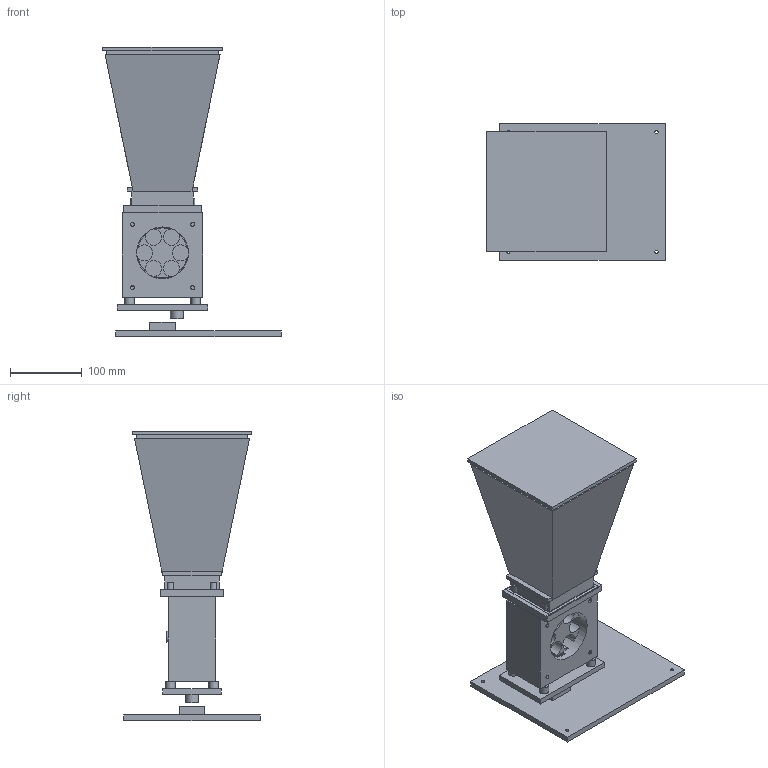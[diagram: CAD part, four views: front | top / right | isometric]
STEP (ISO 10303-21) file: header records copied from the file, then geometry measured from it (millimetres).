
FILE_DESCRIPTION(('Open CASCADE Model'),'2;1');
FILE_NAME('Open CASCADE Shape Model','2026-09-11T00:07:31',('Author'),( 'Open CASCADE'),'Open CASCADE STEP processor 7.9','Open CASCADE 7.9' ,'Unknown');
FILE_SCHEMA(('AUTOMOTIVE_DESIGN { 1 0 10303 214 1 1 1 1 }'));
Length unit declared in the file: millimetre
Products named in the file (11): Open CASCADE STEP translator 7.9 1; Open CASCADE STEP translator 7.9 1.1; Open CASCADE STEP translator 7.9 1.2; Open CASCADE STEP translator 7.9 1.3; Open CASCADE STEP translator 7.9 1.4; Open CASCADE STEP translator 7.9 1.5; Open CASCADE STEP translator 7.9 1.6; Open CASCADE STEP translator 7.9 1.7; Open CASCADE STEP translator 7.9 1.8; Open CASCADE STEP translator 7.9 1.9; Open CASCADE STEP translator 7.9 1.10
Assembly tree (10 placements, depth 2):
  Open CASCADE STEP translator 7.9 1
    Open CASCADE STEP translator 7.9 1.1
    Open CASCADE STEP translator 7.9 1.2
    Open CASCADE STEP translator 7.9 1.3
    Open CASCADE STEP translator 7.9 1.4
    Open CASCADE STEP translator 7.9 1.5
    Open CASCADE STEP translator 7.9 1.6
    Open CASCADE STEP translator 7.9 1.7
    Open CASCADE STEP translator 7.9 1.8
    Open CASCADE STEP translator 7.9 1.9
    Open CASCADE STEP translator 7.9 1.10
Bounding box: 248 x 190 x 402.7 mm (x, y, z)
Volume: 1586436.8 mm3; surface area: 545442.8 mm2
Topology: 10 solids, 11 shells, 245 faces, 595 edges, 393 vertices
Faces by surface type: plane 162, cylinder 71, bspline 12
Full cylindrical faces by diameter (mm): 4.2 x3, 4.5 x12, 5.6 x12, 6 x1, 6.6 x1, 7 x1, 13 x4, 15 x1, 15.08 x1, 18 x1, 72 x2
Entity records: 19649 total; most frequent: CARTESIAN_POINT 7404, DIRECTION 2216, LINE 1324, VECTOR 1324, ORIENTED_EDGE 1190, PCURVE 1190, DEFINITIONAL_REPRESENTATION 1190, EDGE_CURVE 595
